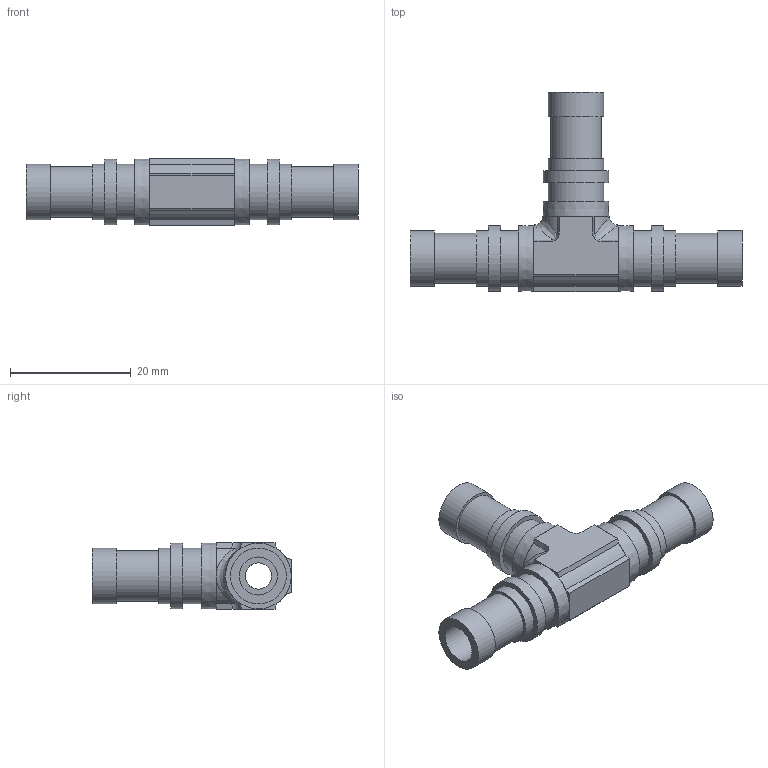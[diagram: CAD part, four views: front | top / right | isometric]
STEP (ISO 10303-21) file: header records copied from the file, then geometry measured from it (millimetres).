
FILE_DESCRIPTION (( 'STEP AP203' ), '1' );
FILE_NAME ('70-6.3UT-P.STEP', '2014-02-26T08:44:49', ( '' ), ( '' ), 'SwSTEP 2.0', 'SolidWorks 2012', '' );
FILE_SCHEMA (( 'CONFIG_CONTROL_DESIGN' ));
Length unit declared in the file: millimetre
Products named in the file (2): 70-6.3UT-P; 70-6.3UT-P^70-6.3UT-P
Assembly tree (1 placements, depth 2):
  70-6.3UT-P
    70-6.3UT-P^70-6.3UT-P
Bounding box: 55 x 33 x 11 mm (x, y, z)
Volume: 4320.9 mm3; surface area: 4012.1 mm2
Topology: 1 solids, 1 shells, 78 faces, 163 edges, 107 vertices
Faces by surface type: plane 39, cylinder 34, cone 3, bspline 2
Full cylindrical faces by diameter (mm): 4.35 x2, 6.3 x3, 8.3 x3, 9.25 x9, 10.9 x3
Entity records: 2302 total; most frequent: CARTESIAN_POINT 536, DIRECTION 330, ORIENTED_EDGE 278, EDGE_CURVE 139, AXIS2_PLACEMENT_3D 137, EDGE_LOOP 126, VERTEX_POINT 107, FACE_OUTER_BOUND 98
